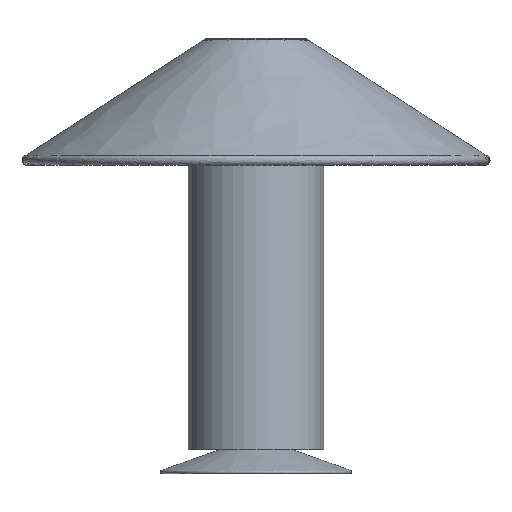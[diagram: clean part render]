
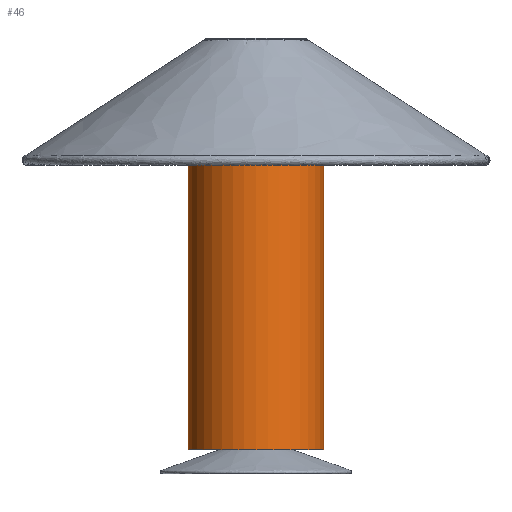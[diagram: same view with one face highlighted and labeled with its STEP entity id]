
A CAD part, front view. The second image highlights one B-rep face of the part: STEP entity #46.
In plain terms, the highlighted cylindrical face has radius 38 mm (diameter 76 mm), a partial arc.
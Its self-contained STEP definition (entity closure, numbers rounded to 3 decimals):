
#20=CYLINDRICAL_SURFACE('',#375,38.);
#46=ADVANCED_FACE('',(#62),#20,.T.);
#62=FACE_OUTER_BOUND('',#80,.T.);
#80=EDGE_LOOP('',(#134,#135,#136,#137));
#134=ORIENTED_EDGE('',*,*,#173,.T.);
#135=ORIENTED_EDGE('',*,*,#165,.T.);
#136=ORIENTED_EDGE('',*,*,#174,.F.);
#137=ORIENTED_EDGE('',*,*,#172,.F.);
#165=EDGE_CURVE('',#251,#252,#185,.T.);
#172=EDGE_CURVE('',#256,#257,#187,.T.);
#173=EDGE_CURVE('',#256,#251,#208,.T.);
#174=EDGE_CURVE('',#257,#252,#209,.T.);
#185=(
BOUNDED_CURVE()
B_SPLINE_CURVE(1,(#1274,#1275),.UNSPECIFIED.,.F.,.F.)
B_SPLINE_CURVE_WITH_KNOTS((2,2),(0.,165.2),.UNSPECIFIED.)
CURVE()
GEOMETRIC_REPRESENTATION_ITEM()
RATIONAL_B_SPLINE_CURVE((1.,1.))
REPRESENTATION_ITEM('')
);
#187=(
BOUNDED_CURVE()
B_SPLINE_CURVE(1,(#1312,#1313),.UNSPECIFIED.,.F.,.F.)
B_SPLINE_CURVE_WITH_KNOTS((2,2),(0.,165.2),.UNSPECIFIED.)
CURVE()
GEOMETRIC_REPRESENTATION_ITEM()
RATIONAL_B_SPLINE_CURVE((1.,1.))
REPRESENTATION_ITEM('')
);
#208=TRIMMED_CURVE($,#232,(#1315),(#1316),.T.,.CARTESIAN.);
#209=TRIMMED_CURVE($,#233,(#1318),(#1319),.T.,.CARTESIAN.);
#232=CIRCLE('',#384,38.);
#233=CIRCLE('',#385,38.);
#251=VERTEX_POINT('',#1240);
#252=VERTEX_POINT('',#1241);
#256=VERTEX_POINT('',#1245);
#257=VERTEX_POINT('',#1246);
#375=AXIS2_PLACEMENT_3D('',#1181,#421,$);
#384=AXIS2_PLACEMENT_3D($,#1314,#438,#439);
#385=AXIS2_PLACEMENT_3D($,#1317,#440,#441);
#421=DIRECTION('',(0.,0.,1.));
#438=DIRECTION('',(0.,0.,1.));
#439=DIRECTION('',(-1.,0.,0.));
#440=DIRECTION('',(0.,0.,1.));
#441=DIRECTION('',(-1.,0.,0.));
#1181=CARTESIAN_POINT('',(0.,0.,96.1));
#1240=CARTESIAN_POINT('',(38.,0.,13.5));
#1241=CARTESIAN_POINT('',(38.,0.,178.7));
#1245=CARTESIAN_POINT('',(-38.,0.,13.5));
#1246=CARTESIAN_POINT('',(-38.,0.,178.7));
#1274=CARTESIAN_POINT('',(38.,0.,13.5));
#1275=CARTESIAN_POINT('',(38.,0.,178.7));
#1312=CARTESIAN_POINT('',(-38.,0.,13.5));
#1313=CARTESIAN_POINT('',(-38.,0.,178.7));
#1314=CARTESIAN_POINT('',(0.,0.,13.5));
#1315=CARTESIAN_POINT('',(-38.,0.,13.5));
#1316=CARTESIAN_POINT('',(38.,0.,13.5));
#1317=CARTESIAN_POINT('',(0.,0.,178.7));
#1318=CARTESIAN_POINT('',(-38.,0.,178.7));
#1319=CARTESIAN_POINT('',(38.,0.,178.7));
